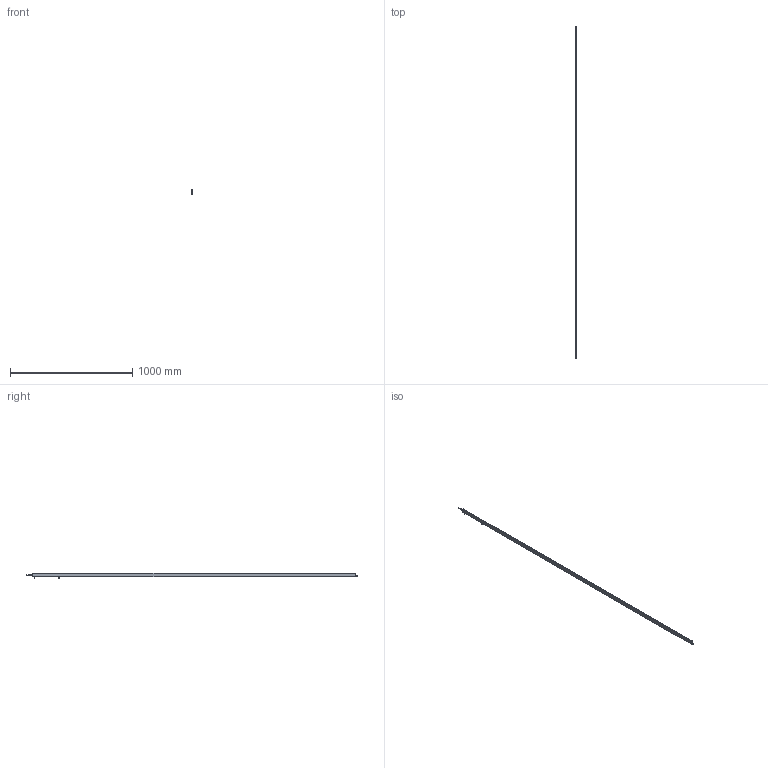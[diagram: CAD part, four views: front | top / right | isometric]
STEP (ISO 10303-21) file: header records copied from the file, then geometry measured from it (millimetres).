
FILE_DESCRIPTION (( 'STEP AP214' ), '1' );
FILE_NAME ('ILG-B-K2-2640mm.STEP', '2017-07-10T13:13:12', ( '' ), ( '' ), 'SwSTEP 2.0', 'SolidWorks 2016', '' );
FILE_SCHEMA (( 'AUTOMOTIVE_DESIGN' ));
Length unit declared in the file: millimetre
Products named in the file (1): ILG-B-K2-2640mm
Bounding box: 9 x 2713.5 x 46.21 mm (x, y, z)
Surface area: 437138.6 mm2 (no closed solid volume)
Topology: 0 solids, 15 shells, 702 faces, 1822 edges, 1157 vertices
Faces by surface type: cylinder 287, plane 266, cone 99, bspline 32, torus 18
Entity records: 31388 total; most frequent: CARTESIAN_POINT 6631, ORIENTED_EDGE 3597, DIRECTION 3488, EDGE_CURVE 1806, AXIS2_PLACEMENT_3D 1342, VERTEX_POINT 1157, LINE 804, VECTOR 804
